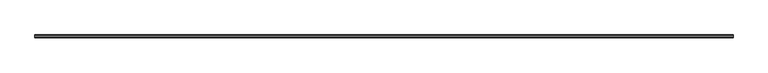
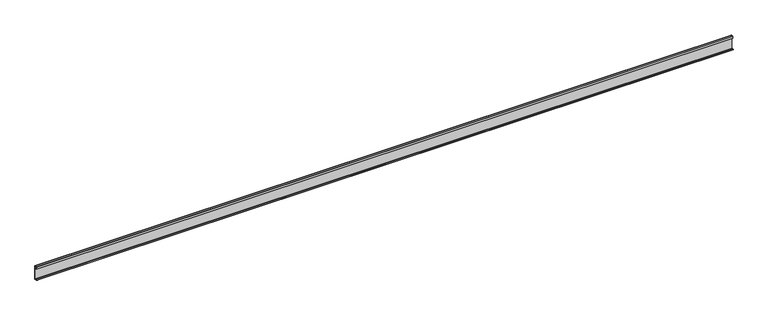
"""IFC4 building model written with IfcOpenShell, lengths in millimetres: proxy geometry, Weiku - Montante - Capa de folha 02.3.02.406 : Weiku - Montante - Capa de folha 02.3.02.406."""

from ifc_helpers import new_model, si_unit, point, frame, frame_2d, origin, place, context, project, spatial, polyline, circle_curve, trimmed, segment, composite_curve, outline, extrude, source, transform, mapped, element, save


def generic_models_ee20ad94(model_context):
    return source(origin(), model_context, "Body", "SweptSolid", [
        extrude(outline(composite_curve([segment(polyline([(-4.6421508, 2.2715508), (-3.3866, 1.016), (-1.6933, 1.016), (-1.6933, 25.684), (-3.3063, 25.684), (-3.3063, 22.3396), (-4.28, 22.3396), (-4.28, 26.2)]), True, "CONTINUOUS"), segment(trimmed(circle_curve(frame_2d((-3.78, 26.2)), 0.5), [point((-4.28, 26.2))], [point((-3.78, 26.7))], False, "CARTESIAN"), True, "CONTINUOUS"), segment(polyline([(-3.78, 26.7), (-0.5, 26.7)]), True, "CONTINUOUS"), segment(trimmed(circle_curve(frame_2d((-0.5, 26.2)), 0.5), [point((-0.5, 26.7))], [point((0.0, 26.2))], False, "CARTESIAN"), True, "CONTINUOUS"), segment(polyline([(0.0, 26.2), (0.0, 0.5)]), True, "CONTINUOUS"), segment(trimmed(circle_curve(frame_2d((-0.5, 0.5)), 0.5), [point((0.0, 0.5))], [point((-0.5, 0.0))], False, "CARTESIAN"), True, "CONTINUOUS"), segment(polyline([(-0.5, 0.0), (-4.7576991, 0.0)]), True, "CONTINUOUS"), segment(trimmed(circle_curve(frame_2d((-4.7576991, 0.7)), 0.7), [point((-4.7576991, 0.0))], [point((-5.3603515, 1.056104))], False, "CARTESIAN"), True, "CONTINUOUS"), segment(polyline([(-5.3603515, 1.056104), (-4.6421508, 2.2715508)]), True, "CONTINUOUS")], self_intersect=False)), frame((-655.6833333, 0.0, 0.0), z_axis=(1.0, 0.0, 0.0), x_axis=(0.0, 1.0, 0.0)), (0.0, 0.0, 1.0), 1311.3666667),
    ])


if __name__ == "__main__":
    model = new_model("IFC4")
    model_context = context("Model", 3, world=origin())
    ifc_project = project(units=[si_unit("LENGTHUNIT", "METRE", prefix="MILLI")], contexts=[model_context])
    site = spatial("IfcSite", under=ifc_project)
    building = spatial("IfcBuilding", under=site)
    placement = place(None, origin())
    generic_models_shape = generic_models_ee20ad94(model_context)
    element("IfcBuildingElementProxy", 1, Name="Weiku - Montante - Capa de folha 02.3.02.406 : Weiku - Montante - Capa de folha 02.3.02.406", ObjectType="Weiku - Montante - Capa de folha 02.3.02.406 : Weiku - Montante - Capa de folha 02.3.02.406", at=placement, inside=building, context=model_context, shape_type="MappedRepresentation", body=[
        mapped(generic_models_shape, transform((0.0, 0.0, 0.0), x_axis=(1.0, 0.0, 0.0), y_axis=(0.0, 1.0, 0.0), z_axis=(0.0, 0.0, 1.0))),
    ])
    save(model, "model.ifc")
